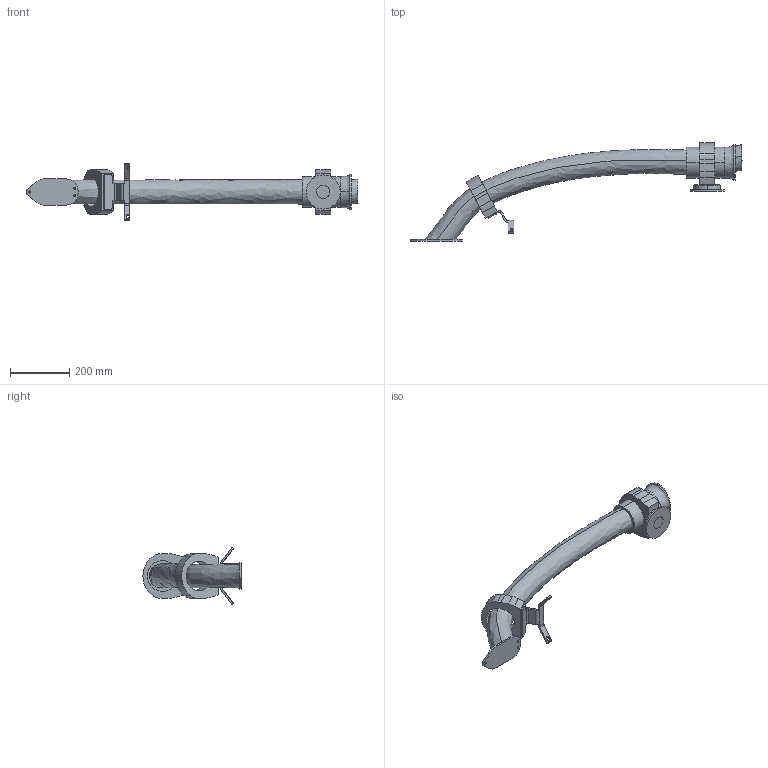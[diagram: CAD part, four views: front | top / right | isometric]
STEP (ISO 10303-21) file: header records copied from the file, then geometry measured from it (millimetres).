
FILE_DESCRIPTION (( 'STEP AP203' ), '1' );
FILE_NAME ('IRB8700-SW6_800-350_IRC5_rev00_LINK4_CABLE.STEP', '2015-06-05T09:03:11', ( 'ABB' ), ( 'ABB' ), 'SwSTEP 2.0', 'SolidWorks 2014', '' );
FILE_SCHEMA (( 'CONFIG_CONTROL_DESIGN' ));
Length unit declared in the file: millimetre
Products named in the file (1): IRB8700-SW6_800-350_IRC5_rev00_LINK4_CABLE
Bounding box: 1120.59 x 331.24 x 190.75 mm (x, y, z)
Volume: 8629335.9 mm3; surface area: 557190.9 mm2
Topology: 5 solids, 5 shells, 168 faces, 411 edges, 258 vertices
Faces by surface type: plane 77, cylinder 65, bspline 14, torus 6, cone 4, sphere 2
Entity records: 6622 total; most frequent: CARTESIAN_POINT 2588, DIRECTION 825, ORIENTED_EDGE 814, EDGE_CURVE 407, AXIS2_PLACEMENT_3D 299, VERTEX_POINT 256, VECTOR 227, LINE 227
